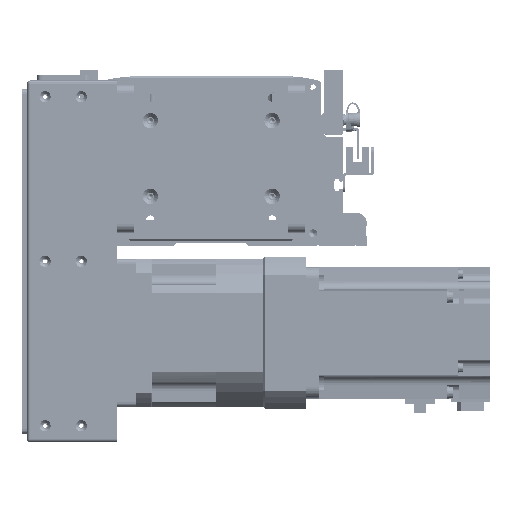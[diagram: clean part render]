
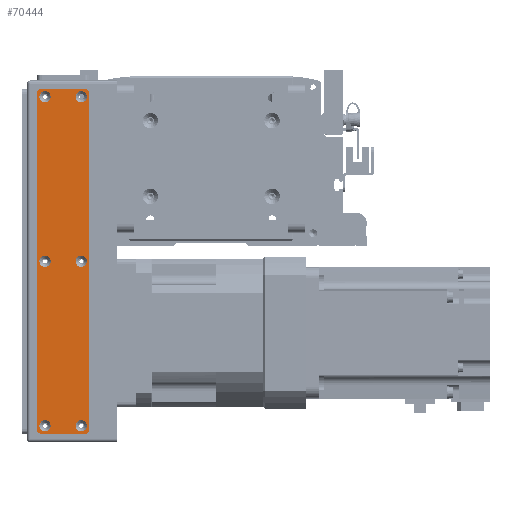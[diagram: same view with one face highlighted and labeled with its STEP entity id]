
A CAD part, front view. The second image highlights one B-rep face of the part: STEP entity #70444.
In plain terms, the highlighted planar face has unit normal (0, -1, 0).
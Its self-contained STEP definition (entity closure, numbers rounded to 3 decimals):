
#2856=FACE_BOUND('',#14726,.T.);
#2857=FACE_BOUND('',#14727,.T.);
#2858=FACE_BOUND('',#14728,.T.);
#2859=FACE_BOUND('',#14729,.T.);
#2860=FACE_BOUND('',#14730,.T.);
#2861=FACE_BOUND('',#14731,.T.);
#5041=PLANE('',#78000);
#10251=FACE_OUTER_BOUND('',#14725,.T.);
#14725=EDGE_LOOP('',(#66390,#66391,#66392,#66393,#66394,#66395,#66396,#66397));
#14726=EDGE_LOOP('',(#66398));
#14727=EDGE_LOOP('',(#66399));
#14728=EDGE_LOOP('',(#66400));
#14729=EDGE_LOOP('',(#66401));
#14730=EDGE_LOOP('',(#66402));
#14731=EDGE_LOOP('',(#66403));
#21192=LINE('',#121315,#27652);
#21193=LINE('',#121319,#27653);
#21194=LINE('',#121323,#27654);
#21195=LINE('',#121326,#27655);
#27652=VECTOR('',#98231,10.);
#27653=VECTOR('',#98234,10.);
#27654=VECTOR('',#98237,10.);
#27655=VECTOR('',#98240,10.);
#30396=CIRCLE('',#77968,3.45);
#30399=CIRCLE('',#77973,3.45);
#30402=CIRCLE('',#77978,3.45);
#30405=CIRCLE('',#77983,3.45);
#30408=CIRCLE('',#77988,3.45);
#30411=CIRCLE('',#77993,3.45);
#30414=CIRCLE('',#77998,3.);
#30416=CIRCLE('',#78001,3.);
#30417=CIRCLE('',#78002,3.);
#30418=CIRCLE('',#78003,3.);
#36895=VERTEX_POINT('',#121245);
#36898=VERTEX_POINT('',#121255);
#36901=VERTEX_POINT('',#121265);
#36904=VERTEX_POINT('',#121275);
#36907=VERTEX_POINT('',#121285);
#36910=VERTEX_POINT('',#121295);
#36913=VERTEX_POINT('',#121305);
#36914=VERTEX_POINT('',#121306);
#36917=VERTEX_POINT('',#121314);
#36918=VERTEX_POINT('',#121316);
#36919=VERTEX_POINT('',#121318);
#36920=VERTEX_POINT('',#121320);
#36921=VERTEX_POINT('',#121322);
#36922=VERTEX_POINT('',#121324);
#46714=EDGE_CURVE('',#36895,#36895,#30396,.T.);
#46719=EDGE_CURVE('',#36898,#36898,#30399,.T.);
#46724=EDGE_CURVE('',#36901,#36901,#30402,.T.);
#46729=EDGE_CURVE('',#36904,#36904,#30405,.T.);
#46734=EDGE_CURVE('',#36907,#36907,#30408,.T.);
#46739=EDGE_CURVE('',#36910,#36910,#30411,.T.);
#46744=EDGE_CURVE('',#36913,#36914,#30414,.T.);
#46748=EDGE_CURVE('',#36913,#36917,#21192,.T.);
#46749=EDGE_CURVE('',#36918,#36917,#30416,.T.);
#46750=EDGE_CURVE('',#36918,#36919,#21193,.T.);
#46751=EDGE_CURVE('',#36920,#36919,#30417,.T.);
#46752=EDGE_CURVE('',#36920,#36921,#21194,.T.);
#46753=EDGE_CURVE('',#36922,#36921,#30418,.T.);
#46754=EDGE_CURVE('',#36922,#36914,#21195,.T.);
#66390=ORIENTED_EDGE('',*,*,#46744,.F.);
#66391=ORIENTED_EDGE('',*,*,#46748,.T.);
#66392=ORIENTED_EDGE('',*,*,#46749,.F.);
#66393=ORIENTED_EDGE('',*,*,#46750,.T.);
#66394=ORIENTED_EDGE('',*,*,#46751,.F.);
#66395=ORIENTED_EDGE('',*,*,#46752,.T.);
#66396=ORIENTED_EDGE('',*,*,#46753,.F.);
#66397=ORIENTED_EDGE('',*,*,#46754,.T.);
#66398=ORIENTED_EDGE('',*,*,#46714,.T.);
#66399=ORIENTED_EDGE('',*,*,#46719,.T.);
#66400=ORIENTED_EDGE('',*,*,#46724,.T.);
#66401=ORIENTED_EDGE('',*,*,#46729,.T.);
#66402=ORIENTED_EDGE('',*,*,#46734,.T.);
#66403=ORIENTED_EDGE('',*,*,#46739,.T.);
#70444=ADVANCED_FACE('',(#10251,#2856,#2857,#2858,#2859,#2860,#2861),#5041,
 .T.);
#77968=AXIS2_PLACEMENT_3D('',#121246,#98151,#98152);
#77973=AXIS2_PLACEMENT_3D('',#121256,#98163,#98164);
#77978=AXIS2_PLACEMENT_3D('',#121266,#98175,#98176);
#77983=AXIS2_PLACEMENT_3D('',#121276,#98187,#98188);
#77988=AXIS2_PLACEMENT_3D('',#121286,#98199,#98200);
#77993=AXIS2_PLACEMENT_3D('',#121296,#98211,#98212);
#77998=AXIS2_PLACEMENT_3D('',#121307,#98223,#98224);
#78000=AXIS2_PLACEMENT_3D('',#121313,#98229,#98230);
#78001=AXIS2_PLACEMENT_3D('',#121317,#98232,#98233);
#78002=AXIS2_PLACEMENT_3D('',#121321,#98235,#98236);
#78003=AXIS2_PLACEMENT_3D('',#121325,#98238,#98239);
#98151=DIRECTION('center_axis',(0.,1.,0.));
#98152=DIRECTION('ref_axis',(1.,0.,0.));
#98163=DIRECTION('center_axis',(0.,1.,0.));
#98164=DIRECTION('ref_axis',(1.,0.,0.));
#98175=DIRECTION('center_axis',(0.,1.,0.));
#98176=DIRECTION('ref_axis',(1.,0.,0.));
#98187=DIRECTION('center_axis',(0.,1.,0.));
#98188=DIRECTION('ref_axis',(1.,0.,0.));
#98199=DIRECTION('center_axis',(0.,1.,0.));
#98200=DIRECTION('ref_axis',(1.,0.,0.));
#98211=DIRECTION('center_axis',(0.,1.,0.));
#98212=DIRECTION('ref_axis',(1.,0.,0.));
#98223=DIRECTION('center_axis',(0.,1.,0.));
#98224=DIRECTION('ref_axis',(-0.707,0.,0.707));
#98229=DIRECTION('center_axis',(0.,-1.,0.));
#98230=DIRECTION('ref_axis',(0.,0.,-1.));
#98231=DIRECTION('',(0.,0.,-1.));
#98232=DIRECTION('center_axis',(0.,1.,0.));
#98233=DIRECTION('ref_axis',(-0.707,0.,-0.707));
#98234=DIRECTION('',(1.,0.,0.));
#98235=DIRECTION('center_axis',(0.,1.,0.));
#98236=DIRECTION('ref_axis',(0.707,0.,-0.707));
#98237=DIRECTION('',(0.,0.,1.));
#98238=DIRECTION('center_axis',(0.,1.,0.));
#98239=DIRECTION('ref_axis',(0.707,0.,0.707));
#98240=DIRECTION('',(-1.,0.,0.));
#121245=CARTESIAN_POINT('',(96.55,-1.5,11.));
#121246=CARTESIAN_POINT('Origin',(100.,-1.5,11.));
#121255=CARTESIAN_POINT('',(-103.45,-1.5,-11.));
#121256=CARTESIAN_POINT('Origin',(-100.,-1.5,-11.));
#121265=CARTESIAN_POINT('',(-3.45,-1.5,11.));
#121266=CARTESIAN_POINT('Origin',(0.,-1.5,11.));
#121275=CARTESIAN_POINT('',(-3.45,-1.5,-11.));
#121276=CARTESIAN_POINT('Origin',(0.,-1.5,-11.));
#121285=CARTESIAN_POINT('',(-103.45,-1.5,11.));
#121286=CARTESIAN_POINT('Origin',(-100.,-1.5,11.));
#121295=CARTESIAN_POINT('',(96.55,-1.5,-11.));
#121296=CARTESIAN_POINT('Origin',(100.,-1.5,-11.));
#121305=CARTESIAN_POINT('',(-105.,-1.5,13.));
#121306=CARTESIAN_POINT('',(-102.,-1.5,16.));
#121307=CARTESIAN_POINT('Origin',(-102.,-1.5,13.));
#121313=CARTESIAN_POINT('Origin',(0.,-1.5,0.));
#121314=CARTESIAN_POINT('',(-105.,-1.5,-13.));
#121315=CARTESIAN_POINT('',(-105.,-1.5,16.));
#121316=CARTESIAN_POINT('',(-102.,-1.5,-16.));
#121317=CARTESIAN_POINT('Origin',(-102.,-1.5,-13.));
#121318=CARTESIAN_POINT('',(102.,-1.5,-16.));
#121319=CARTESIAN_POINT('',(-105.,-1.5,-16.));
#121320=CARTESIAN_POINT('',(105.,-1.5,-13.));
#121321=CARTESIAN_POINT('Origin',(102.,-1.5,-13.));
#121322=CARTESIAN_POINT('',(105.,-1.5,13.));
#121323=CARTESIAN_POINT('',(105.,-1.5,-16.));
#121324=CARTESIAN_POINT('',(102.,-1.5,16.));
#121325=CARTESIAN_POINT('Origin',(102.,-1.5,13.));
#121326=CARTESIAN_POINT('',(105.,-1.5,16.));
